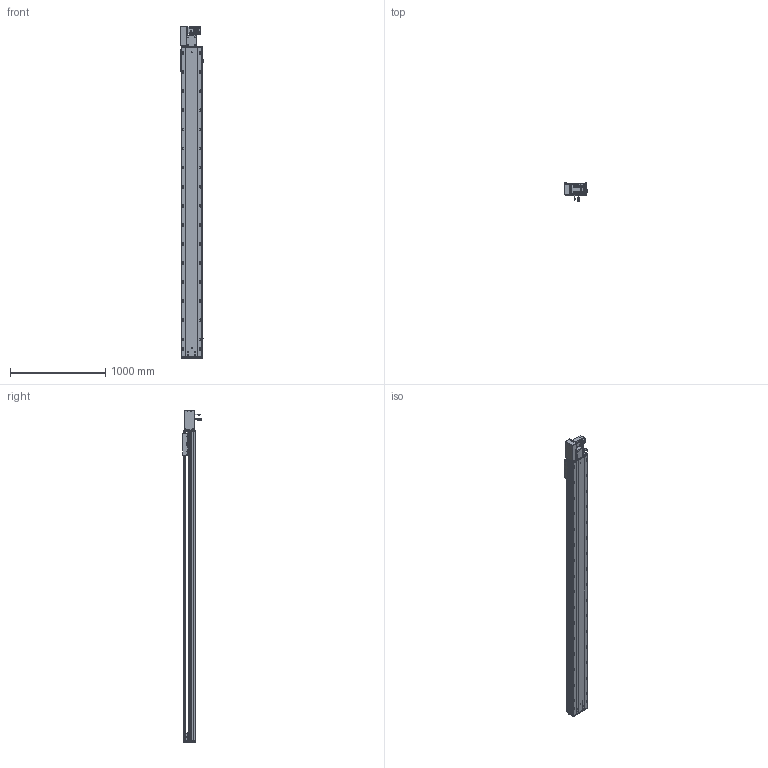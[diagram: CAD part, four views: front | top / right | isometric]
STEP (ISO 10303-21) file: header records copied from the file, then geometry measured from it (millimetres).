
FILE_DESCRIPTION (( 'STEP AP203' ), '1' );
FILE_NAME ('RY220-T-300-LK.SLDASM_2900.step', '2022-07-25T08:16:30', ( '' ), ( '' ), 'SwSTEP 2.0', 'SolidWorks 2016', '' );
FILE_SCHEMA (( 'CONFIG_CONTROL_DESIGN' ));
Length unit declared in the file: millimetre
Products named in the file (14): RY220-T-300-LK.SLDASM_2900; RY220-T菁釱-300_2900; RY220-俋离672覜茼んえ; 110A-T-肮祭謫釱傷裔; RY220翋肮祭謫釱; RY220-T-湍謫欶(鍼踢); 滅袉蝶18-15; 怢湛750W_ECMA-CX0807ES; RY220-T-300-奻裔啣_2900; RY220-T-蛌殏萇儂假蚾啣(750W); RY220圉猾敕々湍臏賑輸; RY220-同步轮副支撑座6304×2; 覜茼ん672; RY220翋肮祭謫裔啣
Assembly tree (18 placements, depth 2):
  RY220-T-300-LK.SLDASM_2900
    RY220-T菁釱-300_2900
    RY220翋肮祭謫釱
    覜茼ん672  x3
    RY220圉猾敕々湍臏賑輸
    RY220-T-300-奻裔啣_2900
    RY220-俋离672覜茼んえ
    滅袉蝶18-15  x3
    RY220翋肮祭謫裔啣  x2
    110A-T-肮祭謫釱傷裔
    怢湛750W_ECMA-CX0807ES
    RY220-T-湍謫欶(鍼踢)
    RY220-T-蛌殏萇儂假蚾啣(750W)
    RY220-同步轮副支撑座6304×2
Bounding box: 239.7 x 198.77 x 3479 mm (x, y, z)
Volume: 24554763 mm3; surface area: 7588382.2 mm2
Topology: 19 solids, 19 shells, 3012 faces, 8335 edges, 5220 vertices
Faces by surface type: cylinder 1488, plane 1069, cone 373, bspline 56, sphere 16, torus 10
Entity records: 100515 total; most frequent: CARTESIAN_POINT 28367, ORIENTED_EDGE 14906, DIRECTION 14396, EDGE_CURVE 7453, AXIS2_PLACEMENT_3D 5198, VERTEX_POINT 4844, VECTOR 4000, LINE 4000
